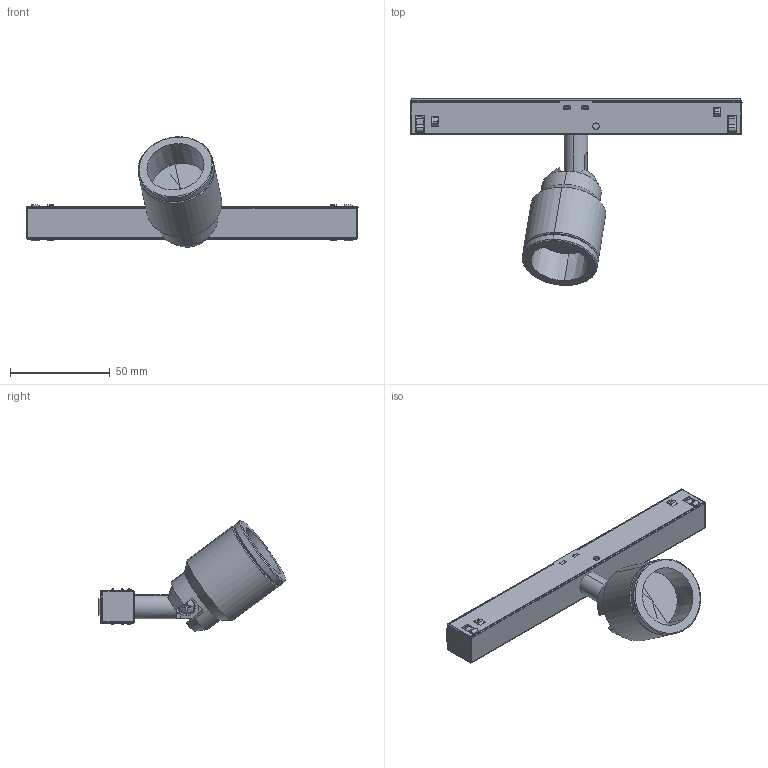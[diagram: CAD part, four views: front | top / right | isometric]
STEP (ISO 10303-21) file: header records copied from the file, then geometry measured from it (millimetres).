
FILE_DESCRIPTION (( 'STEP AP214' ), '1' );
FILE_NAME ('Spot Adjustable CAD.STEP', '2019-01-11T04:38:10', ( '' ), ( '' ), 'SwSTEP 2.0', 'SolidWorks 2017', '' );
FILE_SCHEMA (( 'AUTOMOTIVE_DESIGN' ));
Length unit declared in the file: millimetre
Products named in the file (5): Shaft; Spot Adjustable CAD; pan cross head_am_B18.6.7M - M4 x 0.7 x 5 Type I Cross Recessed PHMS --5N; Adaptor 9519-166; Part3^Spot Adjustable CAD
Assembly tree (4 placements, depth 2):
  Spot Adjustable CAD
    Shaft
    Adaptor 9519-166
    Part3^Spot Adjustable CAD
    pan cross head_am_B18.6.7M - M4 x 0.7 x 5 Type I Cross Recessed PHMS --5N
Bounding box: 166.41 x 93.74 x 55.24 mm (x, y, z)
Volume: 57457.5 mm3; surface area: 40486.9 mm2
Topology: 7 solids, 7 shells, 1765 faces, 4870 edges, 3097 vertices
Faces by surface type: plane 1054, cylinder 402, cone 173, bspline 129, torus 5, sphere 2
Entity records: 62718 total; most frequent: CARTESIAN_POINT 18859, ORIENTED_EDGE 9670, DIRECTION 7607, EDGE_CURVE 4835, VECTOR 3105, LINE 3105, VERTEX_POINT 3097, AXIS2_PLACEMENT_3D 2251
